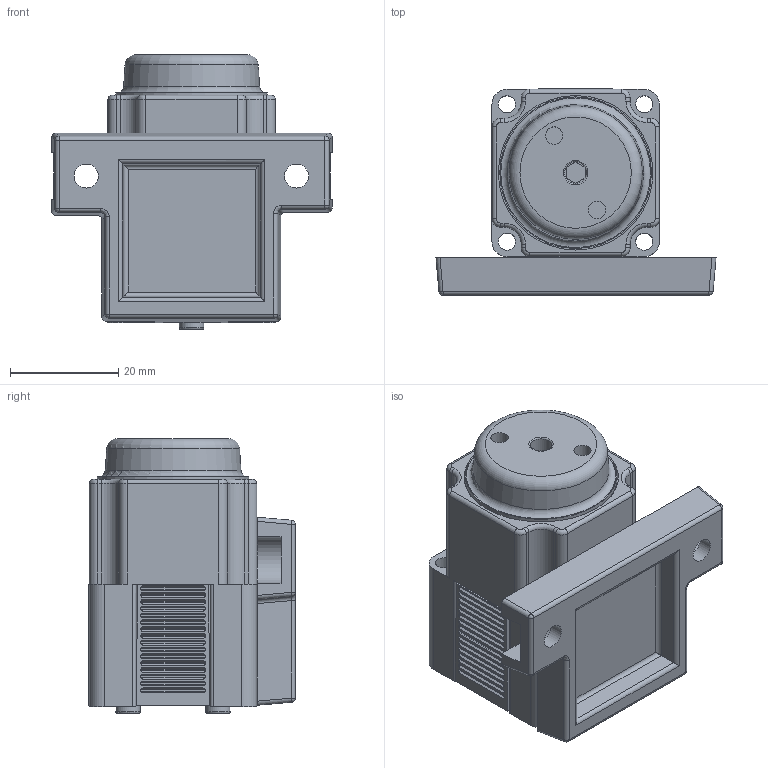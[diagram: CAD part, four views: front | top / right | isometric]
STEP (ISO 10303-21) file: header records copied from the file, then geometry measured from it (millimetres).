
FILE_DESCRIPTION(/* description */ (''),/* implementation_level */ '2;1');
FILE_NAME(/* name */ 'K:\Normteile INVENTOR\Air-Logic\Regulators\PR6000\PR 6___ W Wall Mounting Dovetail Bracket.igs.ipt.stp',/* time_stamp */ '2020-05-27T10:53:43+02:00',/* author */ ('Paul'),/* organization */ (''),/* preprocessor_version */ 'ST-DEVELOPER v18',/* originating_system */ 'Autodesk Inventor 2020',/* authorisation */ '');
FILE_SCHEMA (('AUTOMOTIVE_DESIGN { 1 0 10303 214 3 1 1 }'));
Length unit declared in the file: inch
Products named in the file (1): PR 6___ W Wall Mounting Dovetail Bracket.igs
Bounding box: 51.8 x 38.2 x 50.78 mm (x, y, z)
Volume: 45200.1 mm3; surface area: 16050.2 mm2
Topology: 1 solids, 1 shells, 678 faces, 1734 edges, 1126 vertices
Faces by surface type: plane 332, cylinder 289, torus 27, bspline 22, sphere 6, cone 2
Full cylindrical faces by diameter (mm): 1.194 x1, 2.032 x1, 3.124 x2, 3.175 x8, 3.226 x2, 4.013 x1, 4.445 x2, 4.521 x2, 8.382 x2, 25.781 x1, 28.047 x1, 28.575 x1
Entity records: 24374 total; most frequent: CARTESIAN_POINT 6730, DIRECTION 3724, ORIENTED_EDGE 3468, EDGE_CURVE 1734, AXIS2_PLACEMENT_3D 1466, VERTEX_POINT 1126, LINE 792, VECTOR 792
